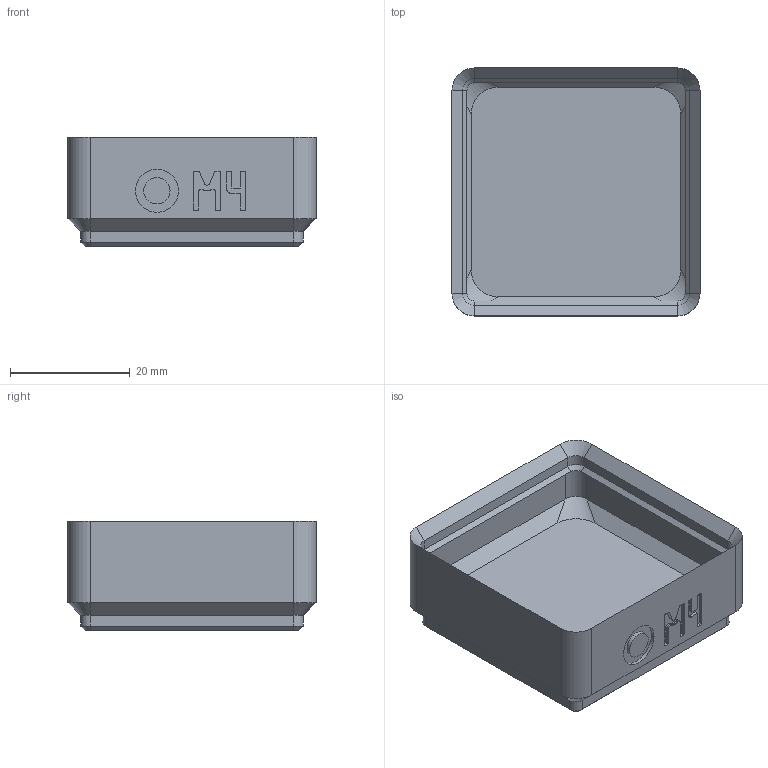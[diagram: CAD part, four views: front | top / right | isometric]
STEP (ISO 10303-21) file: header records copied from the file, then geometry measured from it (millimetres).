
FILE_DESCRIPTION(('Open CASCADE Model'),'2;1');
FILE_NAME('bin_wshr_m4','2026-11-03T16:47:55',('Author'),('Open CASCADE' ),'Open CASCADE STEP processor 8.0','build123d','Unknown');
FILE_SCHEMA(('AUTOMOTIVE_DESIGN { 1 0 10303 214 1 1 1 1 }'));
Length unit declared in the file: millimetre
Products named in the file (1): bin_wshr_m4
Bounding box: 41.5 x 41.5 x 18.4 mm (x, y, z)
Volume: 10999.2 mm3; surface area: 8273.1 mm2
Topology: 1 solids, 1 shells, 289 faces, 766 edges, 492 vertices
Faces by surface type: plane 239, cylinder 26, cone 16, bspline 8
Full cylindrical faces by diameter (mm): 3.2 x4, 4.4 x1, 6.5 x4, 7.2 x1
Entity records: 18250 total; most frequent: CARTESIAN_POINT 3744, DIRECTION 2372, LINE 1650, VECTOR 1650, ORIENTED_EDGE 1532, PCURVE 1532, DEFINITIONAL_REPRESENTATION 1532, EDGE_CURVE 766
